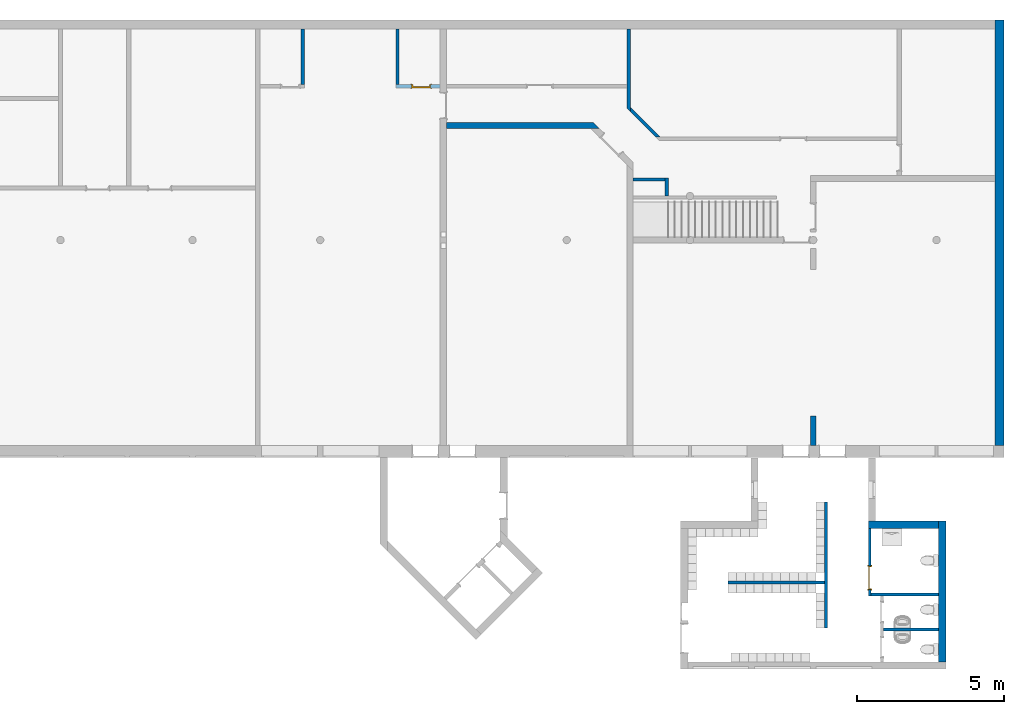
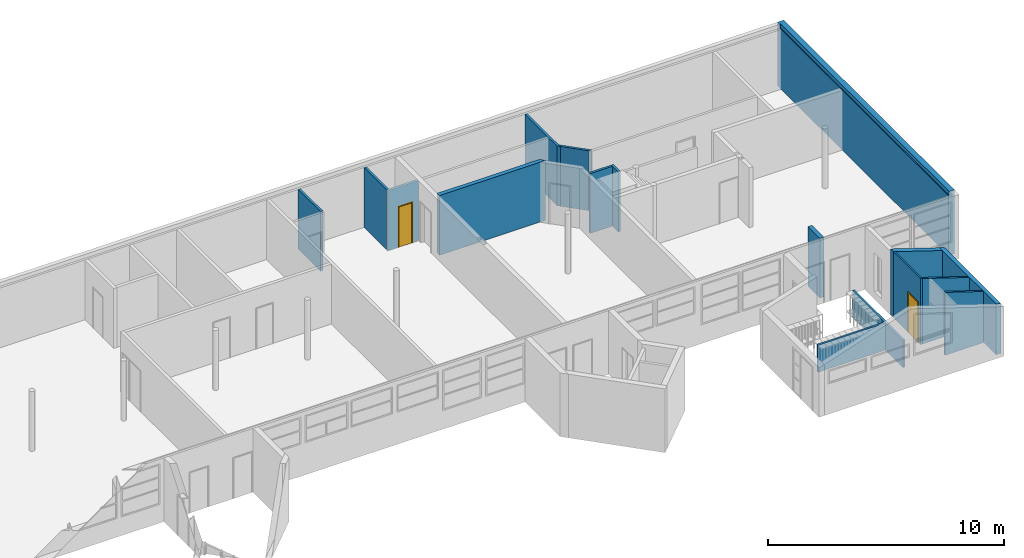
# One storey, part 18 of 25: 16 walls, 2 doors, 2 openings, plus 1 element that does not belong to this part.
"""IFC2X3 building model written with IfcOpenShell, lengths in millimetres."""

from ifc_helpers import new_model, entity, si_unit, converted_unit, derived_unit, money_unit, direction, frame, origin_with_axes, place, context, subcontext, project, spatial, faceted_brep, material, type_object, element, fill, save


model = new_model("IFC2X3")

# Units and contexts
model_context = context("Model", 3, precision=0.01, world=origin_with_axes(), true_north=direction((0.0, 1.0)))
body_context = subcontext(model_context, "Body", "Model", "MODEL_VIEW")
ifc_project = project(units=[si_unit("LENGTHUNIT", "METRE", prefix="MILLI"), si_unit("AREAUNIT", "SQUARE_METRE"), si_unit("VOLUMEUNIT", "CUBIC_METRE"), converted_unit("PLANEANGLEUNIT", "DEGREE", entity("IfcPlaneAngleMeasure", 0.0174532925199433), si_unit("PLANEANGLEUNIT", "RADIAN"), dimensions=[0, 0, 0, 0, 0, 0, 0]), money_unit("USD"), converted_unit("TIMEUNIT", "Year", entity("IfcTimeMeasure", 31557600.0), si_unit("TIMEUNIT", "SECOND"), dimensions=[0, 0, 1, 0, 0, 0, 0]), si_unit("MASSUNIT", "GRAM", prefix="KILO"), si_unit("THERMODYNAMICTEMPERATUREUNIT", "DEGREE_CELSIUS"), si_unit("LUMINOUSINTENSITYUNIT", "LUMEN"), si_unit("ENERGYUNIT", "JOULE", prefix="MEGA"), derived_unit("THERMALCONDUCTANCEUNIT", [(si_unit("POWERUNIT", "WATT"), 1), (si_unit("LENGTHUNIT", "METRE"), -1), (si_unit("THERMODYNAMICTEMPERATUREUNIT", "KELVIN"), -1)]), derived_unit("SPECIFICHEATCAPACITYUNIT", [(si_unit("ENERGYUNIT", "JOULE"), 1), (si_unit("MASSUNIT", "GRAM", prefix="KILO"), -1), (si_unit("THERMODYNAMICTEMPERATUREUNIT", "KELVIN"), -1)]), derived_unit("MASSDENSITYUNIT", [(si_unit("MASSUNIT", "GRAM", prefix="KILO"), 1), (si_unit("VOLUMEUNIT", "CUBIC_METRE"), -1)])], contexts=[model_context])

# Site, building, storey
site_placement = place(None, origin_with_axes())
site = spatial("IfcSite", under=ifc_project, at=site_placement, Name="Site", CompositionType="ELEMENT")
building_placement = place(site_placement, origin_with_axes())
building = spatial("IfcBuilding", under=site, at=building_placement, Name="Building", CompositionType="ELEMENT")
storey_placement = place(building_placement, origin_with_axes())
storey = spatial("IfcBuildingStorey", under=building, at=storey_placement, Name="U ETG", CompositionType="ELEMENT", Elevation=0.0)

# Walls
ifc_material_1 = material(Name="GENERIC - INTERNAL FILLER")
wall_type_1 = type_object("IfcWallType", Name="GENERIC - INTERNAL FILLER 110", PredefinedType="NOTDEFINED")
wall_1_placement = place(storey_placement, frame((61100.00000000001, 16510.0, 0.0), z_axis=(0.0, 0.0, 1.0), x_axis=(-1.0, 0.0, 0.0)))
element("IfcWall", 1, at=wall_1_placement, inside=storey, type_object=wall_type_1, material=ifc_material_1, Name="SW - 001", context=body_context, shape_type="Brep", body=[
    faceted_brep([(1096.497115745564, -109.9999999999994, 3100.0), (1096.497115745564, 0.0, 3100.0), (0.0, 0.0, 3100.0), (0.0, -109.9999999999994, 3100.0), (1096.497115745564, -109.9999999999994, 0.0), (1096.497115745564, 0.0, 0.0), (0.0, 0.0, 0.0), (0.0, -109.9999999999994, 0.0)], [[[0, 1, 2, 3]], [[1, 0, 4, 5]], [[1, 5, 6, 2]], [[7, 3, 2, 6]], [[4, 0, 3, 7]], [[5, 4, 7, 6]]]),
])
wall_2_placement = place(storey_placement, frame((48700.0, 19800.0, 0.0), z_axis=(0.0, 0.0, 1.0), x_axis=(0.0, 1.0, 0.0)))
element("IfcWall", 2, at=wall_2_placement, inside=storey, type_object=wall_type_1, material=ifc_material_1, Name="SW - 001", context=body_context, shape_type="Brep", body=[
    faceted_brep([(1900.000000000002, -109.9999999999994, 3100.0), (1900.000000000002, 0.0, 3100.0), (0.0, 0.0, 3100.0), (0.0, -109.9999999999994, 3100.0), (1900.000000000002, -109.9999999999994, 0.0), (1900.000000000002, 0.0, 0.0), (0.0, 0.0, 0.0), (0.0, -109.9999999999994, 0.0)], [[[0, 1, 2, 3]], [[1, 0, 4, 5]], [[1, 5, 6, 2]], [[7, 3, 2, 6]], [[4, 0, 3, 7]], [[5, 4, 7, 6]]]),
])

# Wall, opening, door
wall_3_placement = place(storey_placement, frame((53550.0, 19800.0, 0.0), z_axis=(0.0, 0.0, 1.0), x_axis=(-1.0, 0.0, 0.0)))
wall_3 = element("IfcWall", 3, at=wall_3_placement, inside=storey, type_object=wall_type_1, material=ifc_material_1, Name="SW - 001", context=body_context, shape_type="Brep", body=[
    faceted_brep([(1085.481488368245, 0.0, 2100.0), (1085.481488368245, 0.0, 0.0), (1620.000000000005, 0.0, 0.0), (1620.000000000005, 0.0, 3100.0), (109.9999999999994, 0.0, 3100.0), (109.9999999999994, 0.0, 0.0), (435.4814883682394, 0.0, 0.0), (435.4814883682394, 0.0, 2100.0), (1085.481488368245, 109.9999999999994, 2100.0), (1085.481488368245, 109.9999999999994, 0.0), (1620.000000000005, 109.9999999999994, 0.0), (1620.000000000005, 109.9999999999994, 3100.0), (109.9999999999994, 109.9999999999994, 3100.0), (109.9999999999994, 109.9999999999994, 0.0), (435.4814883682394, 109.9999999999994, 0.0), (435.4814883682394, 109.9999999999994, 2100.0)], [[[0, 1, 2, 3, 4, 5, 6, 7]], [[1, 0, 8, 9]], [[1, 9, 10, 2]], [[3, 2, 10, 11]], [[12, 4, 3, 11]], [[5, 4, 12, 13]], [[14, 6, 5, 13]], [[7, 6, 14, 15]], [[0, 7, 15, 8]], [[15, 14, 13, 12, 11, 10, 9, 8]]]),
])
opening_1_placement = place(wall_3_placement, frame((760.4814883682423, 0.0, 0.0), z_axis=(0.0, 0.0, 1.0), x_axis=(1.0, 0.0, 0.0)))
opening_1 = element("IfcOpeningElement", 4, at=opening_1_placement, cuts=wall_3, Name="DOO - 002", context=body_context, shape_type="Brep", body=[
    faceted_brep([(325.0000000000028, 109.9999999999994, 2100.0), (-325.0000000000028, 109.9999999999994, 2100.0), (-325.0000000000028, 0.0, 2100.0), (325.0000000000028, 0.0, 2100.0), (-325.0000000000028, 109.9999999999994, 0.0), (325.0000000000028, 109.9999999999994, 0.0), (362.0000000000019, 109.9999999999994, 0.0), (362.0000000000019, 109.9999999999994, 2137.0), (-362.0000000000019, 109.9999999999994, 2137.0), (-362.0000000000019, 109.9999999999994, 0.0), (-325.0000000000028, 0.0, 0.0), (-362.0000000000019, 0.0, 0.0), (-362.0000000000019, 0.0, 2137.0), (362.0000000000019, 0.0, 2137.0), (362.0000000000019, 0.0, 0.0), (325.0000000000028, 0.0, 0.0), (325.0000000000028, 111.0000000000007, 0.0), (362.0000000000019, 111.0000000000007, 0.0), (362.0000000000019, 111.0000000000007, 2137.0), (-362.0000000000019, 111.0000000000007, 2137.0), (-362.0000000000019, 111.0000000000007, 0.0), (-325.0000000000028, 111.0000000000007, 0.0), (325.0000000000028, -1.000000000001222, 0.0), (-325.0000000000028, -1.000000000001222, 0.0), (-362.0000000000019, -1.000000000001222, 0.0), (-362.0000000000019, -1.000000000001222, 2137.0), (362.0000000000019, -1.000000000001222, 2137.0), (362.0000000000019, -1.000000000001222, 0.0), (325.0000000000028, 111.0000000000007, 2100.0), (-325.0000000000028, 111.0000000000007, 2100.0)], [[[0, 1, 2, 3]], [[4, 1, 0, 5, 6, 7, 8, 9]], [[1, 4, 10, 2]], [[3, 2, 10, 11, 12, 13, 14, 15]], [[5, 0, 3, 15]], [[5, 16, 17, 6]], [[7, 6, 17, 18]], [[8, 7, 18, 19]], [[9, 8, 19, 20]], [[21, 4, 9, 20]], [[16, 5, 15, 22, 23, 10, 4, 21]], [[10, 23, 24, 11]], [[12, 11, 24, 25]], [[13, 12, 25, 26]], [[14, 13, 26, 27]], [[22, 15, 14, 27]], [[28, 29, 21, 20, 19, 18, 17, 16]], [[23, 22, 27, 26, 25, 24]], [[28, 16, 21, 29]]]),
])
door_style_1 = type_object("IfcDoorStyle", Name="Dør", ConstructionType="NOTDEFINED", OperationType="SINGLE_SWING_LEFT", ParameterTakesPrecedence=False, Sizeable=False)
door_1_placement = place(opening_1_placement, frame((-325.0000000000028, 0.0, 0.0), z_axis=(0.0, 0.0, 1.0), x_axis=(1.0, 0.0, 0.0)))
door_1 = element("IfcDoor", 5, at=door_1_placement, inside=storey, type_object=door_style_1, Name="DOO - 002", ObjectType="DOOR", OverallHeight=2100.0, OverallWidth=650.0, context=body_context, shape_type="Brep", body=[
    faceted_brep([(687.0000000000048, -19.0000000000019, 0.0), (637.0000000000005, -19.0000000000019, 0.0), (637.0000000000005, 0.0, 0.0), (687.0000000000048, 0.0, 0.0), (687.0000000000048, -19.0000000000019, 2137.0), (637.0000000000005, -19.0000000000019, 2087.0), (637.0000000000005, 0.0, 2087.0), (687.0000000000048, 0.0, 2137.0)], [[[0, 1, 2, 3]], [[0, 4, 5, 1]], [[1, 5, 6, 2]], [[3, 2, 6, 7]], [[4, 0, 3, 7]], [[5, 4, 7, 6]]]),
    faceted_brep([(-36.99999999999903, -19.0000000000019, 2137.0), (13.00000000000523, -19.0000000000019, 2087.0), (13.00000000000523, 0.0, 2087.0), (-36.99999999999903, 0.0, 2137.0), (-36.99999999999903, -19.0000000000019, 0.0), (13.00000000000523, -19.0000000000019, 0.0), (13.00000000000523, 0.0, 0.0), (-36.99999999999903, 0.0, 0.0)], [[[0, 1, 2, 3]], [[0, 4, 5, 1]], [[1, 5, 6, 2]], [[3, 2, 6, 7]], [[4, 0, 3, 7]], [[5, 4, 7, 6]]]),
    faceted_brep([(687.0000000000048, -19.0000000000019, 2137.0), (637.0000000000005, -19.0000000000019, 2087.0), (637.0000000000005, 0.0, 2087.0), (687.0000000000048, 0.0, 2137.0), (-36.99999999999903, -19.0000000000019, 2137.0), (13.00000000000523, -19.0000000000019, 2087.0), (13.00000000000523, 0.0, 2087.0), (-36.99999999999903, 0.0, 2137.0)], [[[0, 1, 2, 3]], [[0, 4, 5, 1]], [[1, 5, 6, 2]], [[3, 2, 6, 7]], [[4, 0, 3, 7]], [[5, 4, 7, 6]]]),
    faceted_brep([(687.0000000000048, 128.9999999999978, 0.0), (687.0000000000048, 109.9999999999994, 0.0), (637.0000000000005, 109.9999999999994, 0.0), (637.0000000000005, 128.9999999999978, 0.0), (687.0000000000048, 128.9999999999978, 2137.0), (687.0000000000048, 109.9999999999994, 2137.0), (637.0000000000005, 109.9999999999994, 2087.0), (637.0000000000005, 128.9999999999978, 2087.0)], [[[0, 1, 2, 3]], [[4, 5, 1, 0]], [[1, 5, 6, 2]], [[3, 2, 6, 7]], [[0, 3, 7, 4]], [[7, 6, 5, 4]]]),
    faceted_brep([(-36.99999999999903, 128.9999999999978, 2137.0), (-36.99999999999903, 109.9999999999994, 2137.0), (13.00000000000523, 109.9999999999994, 2087.0), (13.00000000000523, 128.9999999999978, 2087.0), (-36.99999999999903, 128.9999999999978, 0.0), (-36.99999999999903, 109.9999999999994, 0.0), (13.00000000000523, 109.9999999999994, 0.0), (13.00000000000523, 128.9999999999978, 0.0)], [[[0, 1, 2, 3]], [[4, 5, 1, 0]], [[1, 5, 6, 2]], [[3, 2, 6, 7]], [[0, 3, 7, 4]], [[7, 6, 5, 4]]]),
    faceted_brep([(687.0000000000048, 128.9999999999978, 2137.0), (687.0000000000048, 109.9999999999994, 2137.0), (637.0000000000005, 109.9999999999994, 2087.0), (637.0000000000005, 128.9999999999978, 2087.0), (-36.99999999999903, 128.9999999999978, 2137.0), (-36.99999999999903, 109.9999999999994, 2137.0), (13.00000000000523, 109.9999999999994, 2087.0), (13.00000000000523, 128.9999999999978, 2087.0)], [[[0, 1, 2, 3]], [[4, 5, 1, 0]], [[1, 5, 6, 2]], [[3, 2, 6, 7]], [[0, 3, 7, 4]], [[7, 6, 5, 4]]]),
    faceted_brep([(650.0000000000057, 109.9999999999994, 0.0), (650.0000000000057, -4.999999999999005, 0.0), (609.9999999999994, -4.999999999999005, 0.0), (609.9999999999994, 109.9999999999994, 0.0), (650.0000000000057, 109.9999999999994, 2060.0), (650.0000000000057, -4.999999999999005, 2060.0), (609.9999999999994, -4.999999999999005, 2060.0), (609.9999999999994, 109.9999999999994, 2060.0)], [[[0, 1, 2, 3]], [[4, 5, 1, 0]], [[1, 5, 6, 2]], [[3, 2, 6, 7]], [[0, 3, 7, 4]], [[7, 6, 5, 4]]]),
    faceted_brep([(0.0, 109.9999999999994, 0.0), (0.0, -4.999999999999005, 0.0), (0.0, -4.999999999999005, 2060.0), (0.0, 109.9999999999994, 2060.0), (40.00000000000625, 109.9999999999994, 0.0), (40.00000000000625, -4.999999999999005, 0.0), (40.00000000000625, -4.999999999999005, 2060.0), (40.00000000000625, 109.9999999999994, 2060.0)], [[[0, 1, 2, 3]], [[4, 5, 1, 0]], [[1, 5, 6, 2]], [[3, 2, 6, 7]], [[0, 3, 7, 4]], [[7, 6, 5, 4]]]),
    faceted_brep([(650.0000000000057, 109.9999999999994, 2100.0), (650.0000000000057, -4.999999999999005, 2100.0), (650.0000000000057, -4.999999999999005, 2060.0), (650.0000000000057, 109.9999999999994, 2060.0), (0.0, 109.9999999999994, 2100.0), (0.0, -4.999999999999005, 2100.0), (0.0, -4.999999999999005, 2060.0), (40.00000000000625, -4.999999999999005, 2060.0), (609.9999999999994, -4.999999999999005, 2060.0), (609.9999999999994, 109.9999999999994, 2060.0), (40.00000000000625, 109.9999999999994, 2060.0), (0.0, 109.9999999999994, 2060.0)], [[[0, 1, 2, 3]], [[4, 5, 1, 0]], [[1, 5, 6, 7, 8, 2]], [[3, 2, 8, 9]], [[0, 3, 9, 10, 11, 4]], [[11, 6, 5, 4]], [[10, 7, 6, 11]], [[9, 8, 7, 10]]]),
    faceted_brep([(40.00000000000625, 109.9999999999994, 0.0), (609.9999999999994, 109.9999999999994, 0.0), (609.9999999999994, 70.00000000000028, 0.0), (40.00000000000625, 70.00000000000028, 0.0), (40.00000000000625, 109.9999999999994, 2060.0), (609.9999999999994, 109.9999999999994, 2060.0), (609.9999999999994, 70.00000000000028, 2060.0), (40.00000000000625, 70.00000000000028, 2060.0)], [[[0, 1, 2, 3]], [[0, 4, 5, 1]], [[1, 5, 6, 2]], [[3, 2, 6, 7]], [[4, 0, 3, 7]], [[5, 4, 7, 6]]]),
])
fill(opening_1, door_1)

# Walls
wall_4_placement = place(storey_placement, frame((52039.99999999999, 19800.0, 0.0), z_axis=(0.0, 0.0, 1.0), x_axis=(0.0, 1.0, 0.0)))
element("IfcWall", 6, at=wall_4_placement, inside=storey, type_object=wall_type_1, material=ifc_material_1, Name="SW - 001", context=body_context, shape_type="Brep", body=[
    faceted_brep([(1900.000000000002, 109.9999999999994, 0.0), (1900.000000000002, 0.0, 0.0), (0.0, 0.0, 0.0), (0.0, 109.9999999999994, 0.0), (1900.000000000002, 109.9999999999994, 3100.0), (1900.000000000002, 0.0, 3100.0), (0.0, 0.0, 3100.0), (0.0, 109.9999999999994, 3100.0)], [[[0, 1, 2, 3]], [[1, 0, 4, 5]], [[1, 5, 6, 2]], [[7, 3, 2, 6]], [[4, 0, 3, 7]], [[5, 4, 7, 6]]]),
])
wall_5_placement = place(storey_placement, frame((59810.0, 21700.0, 0.0), z_axis=(0.0, 0.0, 1.0), x_axis=(0.0, -1.0, 0.0)))
element("IfcWall", 7, at=wall_5_placement, inside=storey, type_object=wall_type_1, material=ifc_material_1, Name="SW - 001", context=body_context, shape_type="Brep", body=[
    faceted_brep([(2820.000000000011, 109.9999999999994, 0.0), (2710.000000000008, 0.0, 0.0), (0.0, 0.0, 0.0), (0.0, 109.9999999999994, 0.0), (2820.000000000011, 109.9999999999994, 3100.0), (2710.000000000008, 0.0, 3100.0), (0.0, 0.0, 3100.0), (0.0, 109.9999999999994, 3100.0)], [[[0, 1, 2, 3]], [[1, 0, 4, 5]], [[1, 5, 6, 2]], [[7, 3, 2, 6]], [[4, 0, 3, 7]], [[5, 4, 7, 6]]]),
])
wall_6_placement = place(storey_placement, frame((60900.00000000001, 17900.0, 0.0), z_axis=(0.0, 0.0, 1.0), x_axis=(-0.7071067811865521, 0.7071067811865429, 0.0)))
element("IfcWall", 8, at=wall_6_placement, inside=storey, type_object=wall_type_1, material=ifc_material_1, Name="SW - 001", context=body_context, shape_type="Brep", body=[
    faceted_brep([(1495.929291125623, -109.9999999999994, 3100.0), (1385.929291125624, 0.0, 3100.0), (155.563491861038, 0.0, 3100.0), (45.56349186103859, -109.9999999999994, 3100.0), (1495.929291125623, -109.9999999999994, 0.0), (1385.929291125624, 0.0, 0.0), (155.563491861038, 0.0, 0.0), (45.56349186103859, -109.9999999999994, 0.0)], [[[0, 1, 2, 3]], [[1, 0, 4, 5]], [[1, 5, 6, 2]], [[7, 3, 2, 6]], [[4, 0, 3, 7]], [[5, 4, 7, 6]]]),
])
wall_7_placement = place(storey_placement, frame((61100.00000000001, 15900.0, 0.0), z_axis=(0.0, 0.0, 1.0), x_axis=(0.0, 1.0, 0.0)))
element("IfcWall", 9, at=wall_7_placement, inside=storey, type_object=wall_type_1, material=ifc_material_1, Name="SW - 001", context=body_context, shape_type="Brep", body=[
    faceted_brep([(719.9999999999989, -109.9999999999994, 3100.0), (719.9999999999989, 0.0, 3100.0), (109.9999999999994, 0.0, 3100.0), (109.9999999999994, -109.9999999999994, 3100.0), (719.9999999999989, -109.9999999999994, 0.0), (719.9999999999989, 0.0, 0.0), (109.9999999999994, 0.0, 0.0), (109.9999999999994, -109.9999999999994, 0.0)], [[[0, 1, 2, 3]], [[1, 0, 4, 5]], [[1, 5, 6, 2]], [[7, 3, 2, 6]], [[4, 0, 3, 7]], [[5, 4, 7, 6]]]),
])
ifc_material_2 = material(Name="GENERIC - STRUCTURAL")
wall_type_2 = type_object("IfcWallType", Name="GENERIC - STRUCTURAL 300", PredefinedType="NOTDEFINED")
wall_8_placement = place(storey_placement, frame((72350.0, 7499.570929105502, 0.0), z_axis=(0.0, 0.0, 1.0), x_axis=(0.0, 1.0, 0.0)))
element("IfcWall", 10, at=wall_8_placement, inside=storey, type_object=wall_type_2, material=ifc_material_2, Name="SW - 001", context=body_context, shape_type="Brep", body=[
    faceted_brep([(14300.4295718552, 0.0, 3300.0), (14300.4295718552, -39.99999999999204, 3300.0), (0.0, -39.99999999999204, 3300.0), (0.0, -299.9999999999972, 3300.0), (14500.4290708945, -299.9999999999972, 3300.0), (14500.4290708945, 0.0, 3300.0), (14300.4295718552, -39.99999999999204, 3100.0), (14300.4295718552, 0.0, 3100.0), (0.0, -39.99999999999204, 3100.0), (0.0, 0.0, 3100.0), (0.0, 0.0, 0.0), (0.0, -299.9999999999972, 0.0), (14500.4290708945, -299.9999999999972, 0.0), (14500.4290708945, 0.0, 0.0)], [[[0, 1, 2, 3, 4, 5]], [[6, 1, 0, 7]], [[8, 2, 1, 6]], [[2, 8, 9, 10, 11, 3]], [[11, 12, 4, 3]], [[4, 12, 13, 5]], [[9, 7, 0, 5, 13, 10]], [[7, 9, 8, 6]], [[10, 13, 12, 11]]]),
])
wall_type_3 = type_object("IfcWallType", Name="GENERIC - INTERNAL FILLER 200", PredefinedType="NOTDEFINED")
wall_9_placement = place(storey_placement, frame((53550.0, 18500.0, 0.0), z_axis=(0.0, 0.0, 1.0), x_axis=(1.0, 0.0, 0.0)))
element("IfcWall", 11, at=wall_9_placement, inside=storey, type_object=wall_type_3, material=ifc_material_1, Name="SW - 001", context=body_context, shape_type="Brep", body=[
    faceted_brep([(5309.999999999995, -199.9999999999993, 3100.0), (5109.999999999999, 0.0, 3100.0), (109.9999999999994, 0.0, 3100.0), (109.9999999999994, -199.9999999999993, 3100.0), (5309.999999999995, -199.9999999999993, 0.0), (5109.999999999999, 0.0, 0.0), (109.9999999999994, 0.0, 0.0), (109.9999999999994, -199.9999999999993, 0.0)], [[[0, 1, 2, 3]], [[1, 0, 4, 5]], [[1, 5, 6, 2]], [[7, 3, 2, 6]], [[4, 0, 3, 7]], [[5, 4, 7, 6]]]),
])
wall_10_placement = place(storey_placement, frame((66150.0, 8500.0, 0.0), z_axis=(0.0, 0.0, 1.0), x_axis=(0.0, -1.0, 0.0)))
element("IfcWall", 12, at=wall_10_placement, inside=storey, type_object=wall_type_3, material=ifc_material_1, Name="SW - 001", context=body_context, shape_type="Brep", body=[
    faceted_brep([(1000.429070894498, 99.99999999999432, 0.0), (1000.429070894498, -99.99999999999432, 0.0), (0.0, -99.99999999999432, 0.0), (0.0, 99.99999999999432, 0.0), (1000.429070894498, 99.99999999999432, 3100.0), (1000.429070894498, -99.99999999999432, 3100.0), (0.0, -99.99999999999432, 3100.0), (0.0, 99.99999999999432, 3100.0)], [[[0, 1, 2, 3]], [[1, 0, 4, 5]], [[1, 5, 6, 2]], [[7, 3, 2, 6]], [[4, 0, 3, 7]], [[5, 4, 7, 6]]]),
])
wall_type_4 = type_object("IfcWallType", Name="GENERIC - INTERNAL FILLER 250", PredefinedType="NOTDEFINED")
wall_11_placement = place(storey_placement, frame((70549.5118585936, 4.639644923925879, 0.0), z_axis=(0.0, 0.0, 1.0), x_axis=(4.251740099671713e-05, 0.9999999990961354, 0.0)))
element("IfcWall", 13, at=wall_11_placement, inside=storey, type_object=wall_type_4, material=ifc_material_1, Name="SW - 001", context=body_context, shape_type="Brep", body=[
    faceted_brep([(4920.499901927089, 125.0, 0.0), (4920.49990174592, 124.9999999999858, 2643.51076764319), (4920.510529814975, -125.0, 2562.27948706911), (4920.510529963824, -125.0, 0.0), (124.9999825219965, 125.0000000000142, 0.0), (124.9999825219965, 125.0000000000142, 2643.577017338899), (125.000017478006, -125.0, 2562.345736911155), (125.000017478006, -125.0, 0.0)], [[[0, 1, 2, 3]], [[4, 5, 1, 0]], [[5, 6, 2, 1]], [[3, 2, 6, 7]], [[7, 4, 0, 3]], [[7, 6, 5, 4]]]),
])
wall_12_placement = place(storey_placement, frame((70549.71594799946, 4804.777962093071, 0.0), z_axis=(0.0, 0.0, 1.0), x_axis=(-0.9999999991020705, 4.237757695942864e-05, 0.0)))
element("IfcWall", 14, at=wall_12_placement, inside=storey, type_object=wall_type_4, material=ifc_material_1, Name="SW - 001", context=body_context, shape_type="Brep", body=[
    faceted_brep([(2525.00002543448, -124.9999999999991, 0.0), (2525.00002543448, -124.9999999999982, 3295.118921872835), (2074.935680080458, -125.0000000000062, 3148.898600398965), (2074.935680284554, -124.9999999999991, 0.0), (2525.000025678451, -120.2599142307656, 3423.331074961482), (2525.000025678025, -120.2599140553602, 3295.118987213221), (2525.000038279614, 125.0000000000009, 0.0), (2525.000038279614, 125.0000000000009, 3423.33445617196), (2074.935480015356, -120.2789868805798, 3148.898600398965), (2074.93548021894, -120.2789746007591, 0.0), (124.9999831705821, -120.3615978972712, 0.0), (125.0000174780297, 125.0, 0.0), (2074.935480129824, -120.2789869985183, 3277.093797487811), (125.0000174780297, 125.0, 2643.514157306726), (124.9999831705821, -120.3615977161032, 2643.510767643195)], [[[0, 1, 2, 3]], [[4, 5, 1, 0, 6, 7]], [[5, 8, 2, 1]], [[3, 2, 8, 9]], [[0, 3, 9, 10, 11, 6]], [[5, 4, 12, 8]], [[11, 13, 7, 6]], [[14, 12, 4, 7, 13]], [[9, 8, 12, 14, 10]], [[10, 14, 13, 11]]]),
])
wall_type_5 = type_object("IfcWallType", Name="GENERIC - INTERNAL FILLER 100", PredefinedType="NOTDEFINED")
wall_13_placement = place(storey_placement, frame((68489.56441576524, 1229.7961478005, 0.0), z_axis=(0.0, 0.0, 1.0), x_axis=(0.9999999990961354, -4.251740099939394e-05, 0.0)))
element("IfcWall", 15, at=wall_13_placement, inside=storey, type_object=wall_type_5, material=ifc_material_1, Name="SW - 001", context=body_context, shape_type="Brep", body=[
    faceted_brep([(49.99999290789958, 50.00000000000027, 0.0), (49.99999290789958, 50.00000000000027, 3256.044833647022), (1934.999531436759, 49.9999999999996, 2643.561129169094), (1934.999531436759, 49.99999999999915, 0.0), (50.00000709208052, -50.00000000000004, 0.0), (50.00000709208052, -49.9999999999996, 3256.046210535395), (1934.999531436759, -50.00000000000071, 2643.562510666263), (1934.999531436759, -50.00000000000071, 0.0)], [[[0, 1, 2, 3]], [[4, 5, 1, 0]], [[5, 6, 2, 1]], [[3, 2, 6, 7]], [[0, 3, 7, 4]], [[7, 6, 5, 4]]]),
])

# Wall, opening, door
wall_14_placement = place(storey_placement, frame((68074.71061474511, 4679.882846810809, 0.0), z_axis=(0.0, 0.0, 1.0), x_axis=(-4.237555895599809e-05, -0.999999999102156, 0.0)))
wall_14 = element("IfcWall", 16, at=wall_14_placement, inside=storey, type_object=wall_type_5, material=ifc_material_1, Name="SW - 001", context=body_context, shape_type="Brep", body=[
    faceted_brep([(2086.803273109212, 50.00000000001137, 0.0), (2086.803273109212, 49.99999999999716, 2100.0), (1286.803273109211, 49.99999999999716, 2100.0), (1286.803273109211, 50.00000000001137, 0.0), (0.0, 49.99999999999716, 0.0), (0.0, 49.99999999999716, 3390.841944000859), (2300.000030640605, 49.99999999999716, 3390.873612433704), (2300.000030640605, 49.99999999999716, 0.0), (2086.803273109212, -49.99999999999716, 0.0), (2086.803273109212, -49.99999999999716, 2100.0), (1286.803273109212, -49.99999999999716, 2100.0), (1286.803273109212, -49.99999999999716, 0.0), (0.0, -49.99999999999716, 0.0), (0.0, -49.99999999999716, 3423.334456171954), (2300.000030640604, -50.00000000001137, 3423.366124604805), (2300.000030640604, -50.00000000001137, 0.0)], [[[0, 1, 2, 3, 4, 5, 6, 7]], [[1, 0, 8, 9]], [[2, 1, 9, 10]], [[3, 2, 10, 11]], [[3, 11, 12, 4]], [[13, 5, 4, 12]], [[6, 5, 13, 14]], [[6, 14, 15, 7]], [[8, 0, 7, 15]], [[9, 8, 15, 14, 13, 12, 11, 10]]]),
])
opening_2_placement = place(wall_14_placement, frame((1686.803273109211, 0.0, 0.0), z_axis=(0.0, 0.0, 1.0), x_axis=(1.0, 0.0, 0.0)))
opening_2 = element("IfcOpeningElement", 17, at=opening_2_placement, cuts=wall_14, Name="DOO - 002", context=body_context, shape_type="Brep", body=[
    faceted_brep([(-399.9999999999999, -49.99999999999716, 0.0), (-399.9999999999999, -49.99999999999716, 2100.0), (-400.0000000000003, 50.00000000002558, 2100.0), (-400.0000000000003, 50.00000000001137, 0.0), (399.9999999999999, -49.99999999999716, 2100.0), (-437.0000000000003, -49.99999999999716, 0.0), (-437.0000000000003, -49.99999999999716, 2137.0), (436.9999999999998, -49.99999999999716, 2137.0), (436.9999999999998, -49.99999999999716, 0.0), (399.9999999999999, -49.99999999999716, 0.0), (399.9999999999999, 49.99999999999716, 2100.0), (399.9999999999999, 49.99999999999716, 0.0), (436.9999999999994, 49.99999999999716, 0.0), (436.9999999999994, 49.99999999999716, 2137.0), (-437.0000000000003, 49.99999999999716, 2137.0), (-437.0000000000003, 49.99999999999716, 0.0), (-400.0000000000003, -51.09322623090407, 0.0), (-400.0000000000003, 51.09322623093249, 0.0), (399.9999999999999, 51.09322623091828, 0.0), (399.9999999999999, -51.09322623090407, 0.0), (-437.0000000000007, -51.09322623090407, 0.0), (-437.0000000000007, -51.09322623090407, 2137.0), (436.9999999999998, -51.09322623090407, 2137.0), (436.9999999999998, -51.09322623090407, 0.0), (436.9999999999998, 51.09322623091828, 0.0), (436.9999999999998, 51.09322623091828, 2137.0), (-437.0000000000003, 51.09322623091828, 2137.0), (-437.0000000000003, 51.09322623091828, 0.0), (-400.0000000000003, -51.09322623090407, 2100.0), (399.9999999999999, -51.09322623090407, 2100.0)], [[[0, 1, 2, 3]], [[4, 1, 0, 5, 6, 7, 8, 9]], [[1, 4, 10, 2]], [[3, 2, 10, 11, 12, 13, 14, 15]], [[16, 0, 3, 17, 18, 11, 9, 19]], [[0, 16, 20, 5]], [[6, 5, 20, 21]], [[7, 6, 21, 22]], [[8, 7, 22, 23]], [[19, 9, 8, 23]], [[4, 9, 11, 10]], [[11, 18, 24, 12]], [[13, 12, 24, 25]], [[14, 13, 25, 26]], [[15, 14, 26, 27]], [[17, 3, 15, 27]], [[17, 27, 26, 25, 24, 18]], [[28, 16, 19, 29]], [[16, 28, 29, 19, 23, 22, 21, 20]]]),
])
door_style_2 = type_object("IfcDoorStyle", Name="Dør", ConstructionType="NOTDEFINED", OperationType="SINGLE_SWING_LEFT", ParameterTakesPrecedence=False, Sizeable=False)
door_2_placement = place(opening_2_placement, frame((400.0000000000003, 0.0, 0.0), z_axis=(0.0, 0.0, 1.0), x_axis=(-1.0, 0.0, 0.0)))
door_2 = element("IfcDoor", 18, at=door_2_placement, inside=storey, type_object=door_style_2, Name="DOO - 002", ObjectType="DOOR", OverallHeight=2100.0, OverallWidth=800.0, context=body_context, shape_type="Brep", body=[
    faceted_brep([(837.0000000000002, -69.00000000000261, 0.0), (786.9999999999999, -68.9999999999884, 0.0), (787.0000000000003, -49.99999999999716, 0.0), (837.0000000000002, -49.99999999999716, 0.0), (837.0000000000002, -69.00000000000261, 2137.0), (786.9999999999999, -68.9999999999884, 2087.0), (787.0000000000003, -49.99999999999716, 2087.0), (837.0000000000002, -49.99999999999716, 2137.0)], [[[0, 1, 2, 3]], [[0, 4, 5, 1]], [[1, 5, 6, 2]], [[3, 2, 6, 7]], [[4, 0, 3, 7]], [[5, 4, 7, 6]]]),
    faceted_brep([(-36.99999999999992, -68.9999999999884, 2137.0), (12.9999999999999, -68.9999999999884, 2087.0), (13.00000000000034, -50.00000000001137, 2087.0), (-36.99999999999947, -49.99999999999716, 2137.0), (-36.99999999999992, -68.9999999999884, 0.0), (12.9999999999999, -68.9999999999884, 0.0), (13.00000000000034, -50.00000000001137, 0.0), (-36.99999999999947, -49.99999999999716, 0.0)], [[[0, 1, 2, 3]], [[0, 4, 5, 1]], [[1, 5, 6, 2]], [[3, 2, 6, 7]], [[4, 0, 3, 7]], [[5, 4, 7, 6]]]),
    faceted_brep([(837.0000000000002, -69.00000000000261, 2137.0), (786.9999999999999, -68.9999999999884, 2087.0), (787.0000000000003, -49.99999999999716, 2087.0), (837.0000000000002, -49.99999999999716, 2137.0), (-36.99999999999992, -68.9999999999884, 2137.0), (12.9999999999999, -68.9999999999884, 2087.0), (13.00000000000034, -50.00000000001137, 2087.0), (-36.99999999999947, -49.99999999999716, 2137.0)], [[[0, 1, 2, 3]], [[0, 4, 5, 1]], [[1, 5, 6, 2]], [[3, 2, 6, 7]], [[4, 0, 3, 7]], [[5, 4, 7, 6]]]),
    faceted_brep([(837.0000000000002, 69.00000000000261, 0.0), (837.0000000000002, 49.99999999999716, 0.0), (787.0000000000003, 49.99999999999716, 0.0), (787.0000000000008, 69.00000000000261, 0.0), (837.0000000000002, 69.00000000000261, 2137.0), (837.0000000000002, 49.99999999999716, 2137.0), (787.0000000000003, 49.99999999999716, 2087.0), (787.0000000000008, 69.00000000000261, 2087.0)], [[[0, 1, 2, 3]], [[4, 5, 1, 0]], [[1, 5, 6, 2]], [[3, 2, 6, 7]], [[0, 3, 7, 4]], [[7, 6, 5, 4]]]),
    faceted_brep([(-36.99999999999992, 69.00000000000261, 2137.0), (-36.99999999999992, 49.99999999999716, 2137.0), (12.9999999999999, 49.99999999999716, 2087.0), (13.00000000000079, 69.00000000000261, 2087.0), (-36.99999999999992, 69.00000000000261, 0.0), (-36.99999999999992, 49.99999999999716, 0.0), (12.9999999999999, 49.99999999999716, 0.0), (13.00000000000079, 69.00000000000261, 0.0)], [[[0, 1, 2, 3]], [[4, 5, 1, 0]], [[1, 5, 6, 2]], [[3, 2, 6, 7]], [[0, 3, 7, 4]], [[7, 6, 5, 4]]]),
    faceted_brep([(837.0000000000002, 69.00000000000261, 2137.0), (837.0000000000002, 49.99999999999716, 2137.0), (787.0000000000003, 49.99999999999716, 2087.0), (787.0000000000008, 69.00000000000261, 2087.0), (-36.99999999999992, 69.00000000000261, 2137.0), (-36.99999999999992, 49.99999999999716, 2137.0), (12.9999999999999, 49.99999999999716, 2087.0), (13.00000000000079, 69.00000000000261, 2087.0)], [[[0, 1, 2, 3]], [[4, 5, 1, 0]], [[1, 5, 6, 2]], [[3, 2, 6, 7]], [[0, 3, 7, 4]], [[7, 6, 5, 4]]]),
    faceted_brep([(799.9999999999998, 49.99999999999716, 0.0), (800.0000000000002, -64.99999999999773, 0.0), (760.0000000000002, -64.99999999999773, 0.0), (760.0000000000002, 50.00000000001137, 0.0), (799.9999999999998, 49.99999999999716, 2060.0), (800.0000000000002, -64.99999999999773, 2060.0), (760.0000000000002, -64.99999999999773, 2060.0), (760.0000000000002, 50.00000000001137, 2060.0)], [[[0, 1, 2, 3]], [[4, 5, 1, 0]], [[1, 5, 6, 2]], [[3, 2, 6, 7]], [[0, 3, 7, 4]], [[7, 6, 5, 4]]]),
    faceted_brep([(0.0, 49.99999999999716, 0.0), (0.0, -64.99999999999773, 0.0), (0.0, -64.99999999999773, 2060.0), (0.0, 49.99999999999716, 2060.0), (40.00000000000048, 49.99999999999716, 0.0), (40.00000000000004, -64.99999999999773, 0.0), (40.00000000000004, -64.99999999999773, 2060.0), (40.00000000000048, 49.99999999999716, 2060.0)], [[[0, 1, 2, 3]], [[4, 5, 1, 0]], [[1, 5, 6, 2]], [[3, 2, 6, 7]], [[0, 3, 7, 4]], [[7, 6, 5, 4]]]),
    faceted_brep([(799.9999999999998, 49.99999999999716, 2100.0), (800.0000000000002, -64.99999999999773, 2100.0), (800.0000000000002, -64.99999999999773, 2060.0), (799.9999999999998, 49.99999999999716, 2060.0), (0.0, 49.99999999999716, 2100.0), (0.0, -64.99999999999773, 2100.0), (0.0, -64.99999999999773, 2060.0), (40.00000000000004, -64.99999999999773, 2060.0), (760.0000000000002, -64.99999999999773, 2060.0), (760.0000000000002, 50.00000000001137, 2060.0), (40.00000000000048, 49.99999999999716, 2060.0), (0.0, 49.99999999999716, 2060.0)], [[[0, 1, 2, 3]], [[4, 5, 1, 0]], [[1, 5, 6, 7, 8, 2]], [[3, 2, 8, 9]], [[0, 3, 9, 10, 11, 4]], [[11, 6, 5, 4]], [[10, 7, 6, 11]], [[9, 8, 7, 10]]]),
    faceted_brep([(40.00000000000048, 49.99999999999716, 0.0), (760.0000000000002, 50.00000000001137, 0.0), (760.0000000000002, 9.999999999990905, 0.0), (40.00000000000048, 10.00000000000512, 0.0), (40.00000000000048, 49.99999999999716, 2060.0), (760.0000000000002, 50.00000000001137, 2060.0), (760.0000000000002, 9.999999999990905, 2060.0), (40.00000000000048, 10.00000000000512, 2060.0)], [[[0, 1, 2, 3]], [[0, 4, 5, 1]], [[1, 5, 6, 2]], [[3, 2, 6, 7]], [[4, 0, 3, 7]], [[5, 4, 7, 6]]]),
])
fill(opening_2, door_2)

# Walls
wall_15_placement = place(storey_placement, frame((68074.61738851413, 2479.88281814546, 0.0), z_axis=(0.0, 0.0, 1.0), x_axis=(0.999999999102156, -4.237555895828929e-05, 0.0)))
element("IfcWall", 19, at=wall_15_placement, inside=storey, type_object=wall_type_5, material=ifc_material_1, Name="SW - 001", context=body_context, shape_type="Brep", body=[
    faceted_brep([(49.99999999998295, 0.0, 0.0), (49.99999999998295, 0.0, 3390.872235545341), (2349.999708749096, 0.0, 2643.544550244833), (2349.999708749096, 0.0, 0.0), (49.99999999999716, -100.0000000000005, 0.0), (49.99999999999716, -100.0000000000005, 3390.873612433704), (2349.999694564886, -100.000000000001, 2643.545931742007), (2349.999694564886, -100.000000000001, 0.0)], [[[0, 1, 2, 3]], [[4, 5, 1, 0]], [[5, 6, 2, 1]], [[3, 2, 6, 7]], [[0, 3, 7, 4]], [[7, 6, 5, 4]]]),
])
wall_16_placement = place(storey_placement, frame((66539.60553594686, 1279.810984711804, 0.0), z_axis=(0.0, 0.0, 1.0), x_axis=(3.767090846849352e-05, 0.9999999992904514, 0.0)))
element("IfcWall", 20, at=wall_16_placement, inside=storey, type_object=wall_type_5, material=ifc_material_1, Name="SW - 001", context=body_context, shape_type="Brep", body=[
    faceted_brep([(0.0, -99.99999999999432, 1400.0), (4299.999999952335, -99.99999999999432, 1400.0), (4299.999999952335, 0.0, 1400.0), (0.0, 0.0, 1400.0), (0.0, -99.99999999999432, 0.0), (4299.999999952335, -99.99999999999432, 0.0), (4299.999999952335, 0.0, 0.0), (0.0, 0.0, 0.0)], [[[0, 1, 2, 3]], [[4, 5, 1, 0]], [[2, 1, 5, 6]], [[3, 2, 6, 7]], [[4, 0, 3, 7]], [[7, 6, 5, 4]]]),
])
wall_17_placement = place(storey_placement, frame((63239.64535834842, 2879.950830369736, 0.0), z_axis=(0.0, 0.0, 1.0), x_axis=(1.0, 0.0, 0.0)))
element("IfcWall", 21, at=wall_17_placement, inside=storey, type_object=wall_type_5, material=ifc_material_1, Name="SW - 001", context=body_context, shape_type="Brep", body=[
    faceted_brep([(3300.016689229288, -99.99999999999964, 1400.0), (3300.020456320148, 0.0, 1400.0), (0.0, 0.0, 1400.0), (0.0, -100.0000000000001, 1400.0), (3300.016689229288, -99.99999999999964, 0.0), (3300.020456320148, 0.0, 0.0), (0.0, 0.0, 0.0), (0.0, -100.0000000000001, 0.0)], [[[0, 1, 2, 3]], [[1, 0, 4, 5]], [[1, 5, 6, 2]], [[7, 3, 2, 6]], [[4, 0, 3, 7]], [[5, 4, 7, 6]]]),
])

save(model, "model.ifc")
